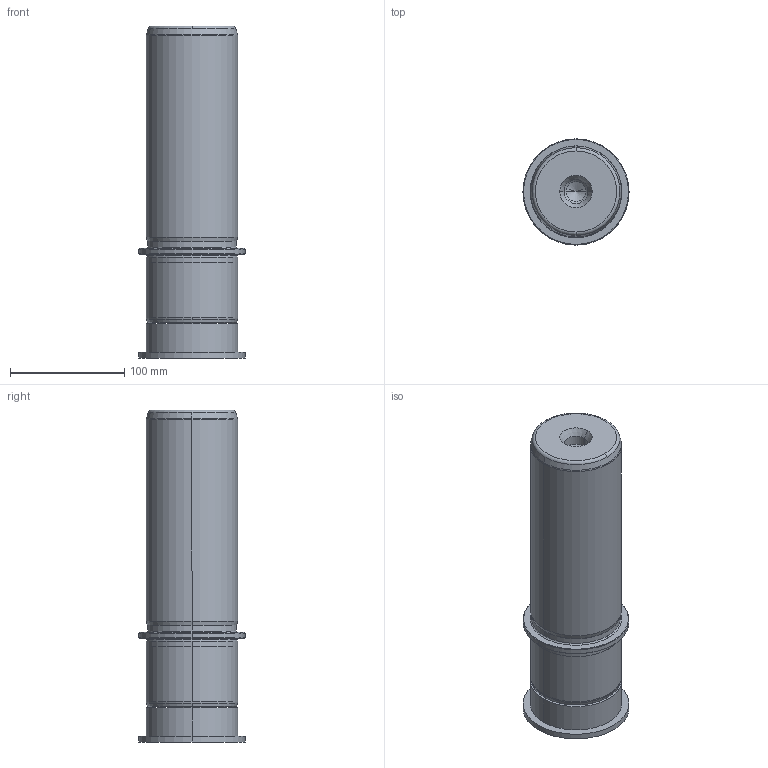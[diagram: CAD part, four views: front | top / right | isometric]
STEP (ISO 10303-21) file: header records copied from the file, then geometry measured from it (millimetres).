
FILE_DESCRIPTION((''),'2;1');
FILE_NAME('P22_080_200.stp','2009-02-03T10:14:34',(''),(''),'Mechanical Desktop 2009','Mechanical Desktop 2009',', , ');
FILE_SCHEMA(('CONFIG_CONTROL_DESIGN'));
Length unit declared in the file: millimetre
Products named in the file (2): Product; blmdl1
Assembly tree (1 placements, depth 2):
  Product
    blmdl1
Bounding box: 93 x 93 x 291 mm (x, y, z)
Volume: 1446775.3 mm3; surface area: 114321.1 mm2
Topology: 3 solids, 3 shells, 99 faces, 237 edges, 149 vertices
Faces by surface type: cylinder 32, cone 28, plane 19, torus 10, bspline 10
Entity records: 3419 total; most frequent: CARTESIAN_POINT 923, DIRECTION 570, ORIENTED_EDGE 466, AXIS2_PLACEMENT_3D 246, EDGE_CURVE 233, CIRCLE 155, VERTEX_POINT 149, EDGE_LOOP 110
